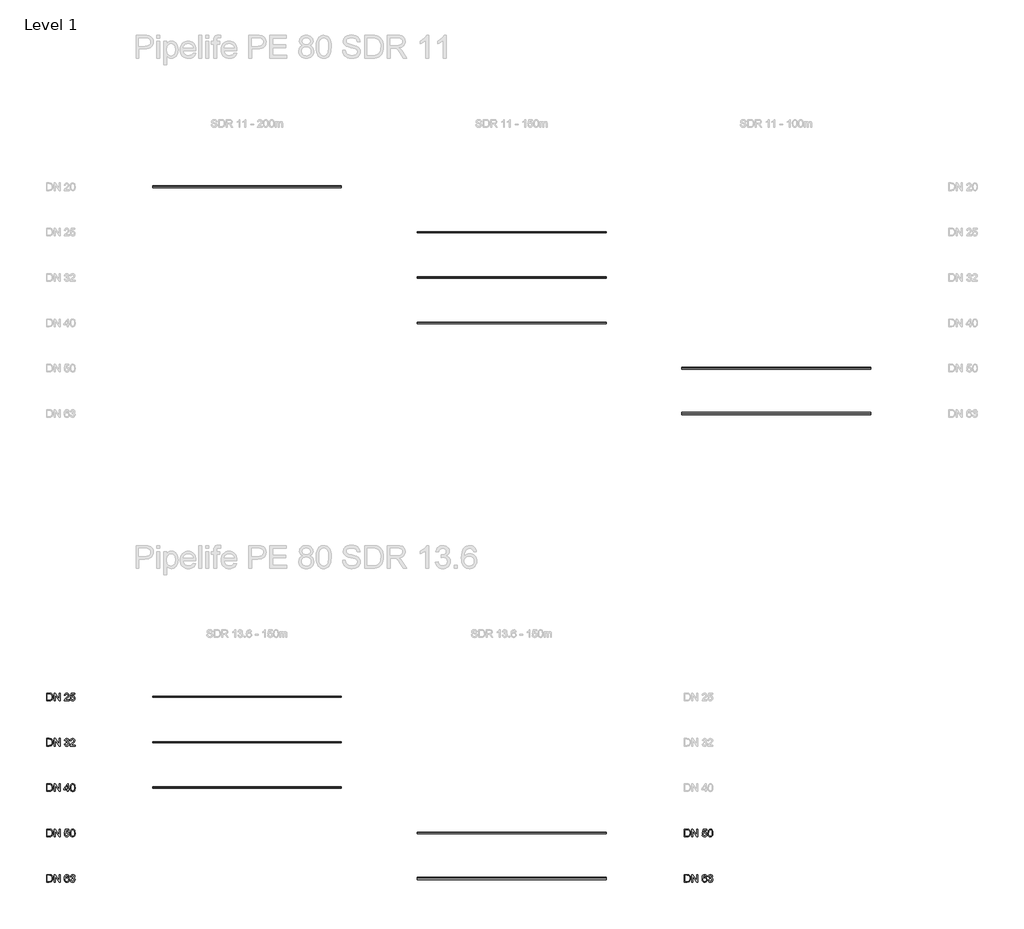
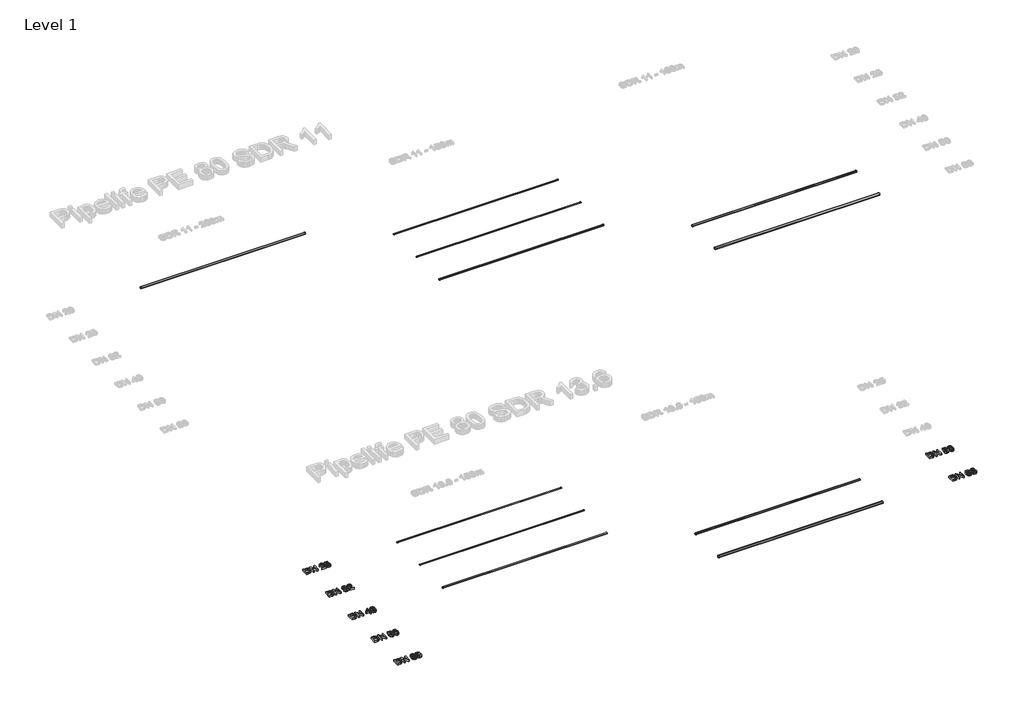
# One storey, part 1 of 6: 11 pipe segments, 7 proxies.
"""IFC4 building model written with IfcOpenShell, lengths in millimetres."""

from ifc_helpers import new_model, si_unit, point, frame, frame_2d, origin, origin_with_axes, place, context, project, spatial, polyline, circle_curve, trimmed, segment, composite_curve, outline, extrude, element, save

model = new_model("IFC4")

# Units and contexts
model_context = context("Model", 3, world=origin())
ifc_project = project(units=[si_unit("LENGTHUNIT", "METRE", prefix="MILLI")], contexts=[model_context])

# Site, building, storey
site = spatial("IfcSite", under=ifc_project)
building = spatial("IfcBuilding", under=site)
storey = spatial("IfcBuildingStorey", under=building, Name="Level 1", Elevation=0.0)

# Proxies
placement = place(None, origin())
element("IfcBuildingElementProxy", 1, Name="200mm Arial", ObjectType="200mm Arial", at=placement, inside=storey, context=model_context, shape_type="SweptSolid", body=[
    extrude(outline(polyline([(-19337.4878779, -14213.949573), (-19337.4878779, -14013.0369527), (-19268.17891, -14013.0369527), (-19232.3226782, -14015.9309577), (-19216.3075487, -14021.5105013), (-19202.7940167, -14030.302881), (-19188.90034, -14045.606772), (-19179.0043144, -14064.6385338), (-19173.0814143, -14087.0302846), (-19171.1071142, -14112.4141423), (-19176.4536659, -14152.9547382), (-19190.187927, -14182.2136195), (-19208.5329759, -14200.436041), (-19232.5434074, -14210.5160077), (-19264.8434466, -14213.949573), (-19337.4878779, -14213.949573)]), holes=[polyline([(-19312.3738004, -14188.8354954), (-19267.9336553, -14188.8354954), (-19235.6090907, -14185.2057264), (-19216.9697363, -14174.9540815), (-19208.2448016, -14164.0831685), (-19201.6903707, -14150.0116822), (-19197.5884865, -14132.6783089), (-19196.2211917, -14112.0217348), (-19198.9005989, -14084.6513144), (-19206.9388205, -14064.4423301), (-19218.8152776, -14050.5609162), (-19233.0093913, -14042.1732067), (-19268.6203684, -14038.1510302), (-19312.3738004, -14038.1510302), (-19312.3738004, -14188.8354954)])]), origin_with_axes(), (0.0, 0.0, 1.0), 50.0),
    extrude(outline(polyline([(-19136.5752576, -14213.949573), (-19136.5752576, -14013.0369527), (-19109.6953465, -14013.0369527), (-19004.7263505, -14172.2072292), (-19004.7263505, -14013.0369527), (-18979.612273, -14013.0369527), (-18979.612273, -14213.949573), (-19006.4921841, -14213.949573), (-19111.4611801, -14054.7302454), (-19111.4611801, -14213.949573), (-19136.5752576, -14213.949573)])), origin_with_axes(), (0.0, 0.0, 1.0), 50.0),
    extrude(outline(polyline([(-18866.5989241, -14160.5821582), (-18841.4848465, -14157.4428985), (-18835.8623834, -14173.2250361), (-18827.627958, -14183.8813512), (-18816.3769004, -14189.9514041), (-18801.7045401, -14191.9747551), (-18784.4876627, -14189.1911147), (-18771.19486, -14180.8401934), (-18762.6967859, -14168.3812565), (-18759.8640945, -14153.2735692), (-18762.6722604, -14138.9323028), (-18771.0967581, -14127.3011004), (-18783.8500006, -14119.5939726), (-18799.6444009, -14117.02493), (-18817.2536858, -14119.7717822), (-18814.4577826, -14094.6577047), (-18810.4356061, -14094.9520102), (-18795.3892325, -14093.1493885), (-18781.9370142, -14087.7415231), (-18772.4456588, -14078.5935242), (-18769.2818736, -14065.5705016), (-18771.5750047, -14054.7241141), (-18778.454398, -14045.925603), (-18788.9512976, -14040.0946734), (-18802.0969476, -14038.1510302), (-18815.267123, -14040.1130675), (-18826.0338027, -14045.9991794), (-18833.8942147, -14055.809366), (-18838.3455868, -14069.5436271), (-18863.4596644, -14066.4043674), (-18856.0652363, -14043.8532011), (-18842.9073236, -14027.0164685), (-18824.9056313, -14016.5318316), (-18802.9798644, -14013.0369527), (-18787.1915954, -14014.7598667), (-18772.6909134, -14019.9286087), (-18760.4649685, -14028.0833263), (-18751.5009105, -14038.7641669), (-18746.0010747, -14051.0698196), (-18744.1677961, -14064.0989736), (-18745.9091042, -14076.2390794), (-18751.1330285, -14087.2510138), (-18759.7659927, -14096.6320047), (-18771.7344202, -14103.87928), (-18756.0135963, -14110.2313758), (-18744.3639998, -14121.0471064), (-18737.1535127, -14135.7378608), (-18734.750017, -14153.7150276), (-18739.5570084, -14178.191443), (-18753.9779826, -14198.645682), (-18775.744334, -14212.478045), (-18802.5874569, -14217.0888326), (-18826.8676686, -14213.1524953), (-18846.6351945, -14201.3434833), (-18860.3817184, -14183.2804773), (-18866.5989241, -14160.5821582)])), origin_with_axes(), (0.0, 0.0, 1.0), 50.0),
    extrude(outline(polyline([(-18584.0655518, -14188.8354954), (-18584.0655518, -14213.949573), (-18715.9144588, -14213.949573), (-18713.2166575, -14196.6345937), (-18697.9618175, -14169.9754118), (-18666.5201696, -14140.8636832), (-18623.1591451, -14099.0232377), (-18615.028953, -14084.6022634), (-18612.318889, -14070.5736967), (-18614.8756689, -14057.9982638), (-18622.5460085, -14047.5442838), (-18634.3366264, -14040.4993436), (-18649.2542413, -14038.1510302), (-18664.9198829, -14040.4441613), (-18677.0906456, -14047.3235546), (-18684.9449262, -14058.2496499), (-18687.6611216, -14072.6828868), (-18712.7751992, -14069.5436271), (-18706.6867521, -14045.2511527), (-18693.5227081, -14027.5069778), (-18673.96978, -14016.6544589), (-18648.7146811, -14013.0369527), (-18623.2756411, -14017.0591291), (-18603.7595012, -14029.1256586), (-18591.3434839, -14047.1518763), (-18587.2048115, -14069.0531178), (-18591.6684463, -14092.8673456), (-18606.5063535, -14117.4909138), (-18642.4852126, -14151.9001431), (-18671.376212, -14176.0577275), (-18682.7069774, -14188.8354954), (-18584.0655518, -14188.8354954)])), origin_with_axes(), (0.0, 0.0, 1.0), 50.0),
])
element("IfcBuildingElementProxy", 2, Name="200mm Arial", ObjectType="200mm Arial", at=placement, inside=storey, context=model_context, shape_type="SweptSolid", body=[
    extrude(outline(polyline([(-19337.4878779, -15413.949573), (-19337.4878779, -15213.0369527), (-19268.17891, -15213.0369527), (-19232.3226782, -15215.9309577), (-19216.3075487, -15221.5105013), (-19202.7940167, -15230.302881), (-19188.90034, -15245.606772), (-19179.0043144, -15264.6385338), (-19173.0814143, -15287.0302846), (-19171.1071142, -15312.4141423), (-19176.4536659, -15352.9547382), (-19190.187927, -15382.2136195), (-19208.5329759, -15400.436041), (-19232.5434074, -15410.5160077), (-19264.8434466, -15413.949573), (-19337.4878779, -15413.949573)]), holes=[polyline([(-19312.3738004, -15388.8354954), (-19267.9336553, -15388.8354954), (-19235.6090907, -15385.2057264), (-19216.9697363, -15374.9540815), (-19208.2448016, -15364.0831685), (-19201.6903707, -15350.0116822), (-19197.5884865, -15332.6783089), (-19196.2211917, -15312.0217348), (-19198.9005989, -15284.6513144), (-19206.9388205, -15264.4423301), (-19218.8152776, -15250.5609162), (-19233.0093913, -15242.1732067), (-19268.6203684, -15238.1510302), (-19312.3738004, -15238.1510302), (-19312.3738004, -15388.8354954)])]), origin_with_axes(), (0.0, 0.0, 1.0), 50.0),
    extrude(outline(polyline([(-19136.5752576, -15413.949573), (-19136.5752576, -15213.0369527), (-19109.6953465, -15213.0369527), (-19004.7263505, -15372.2072292), (-19004.7263505, -15213.0369527), (-18979.612273, -15213.0369527), (-18979.612273, -15413.949573), (-19006.4921841, -15413.949573), (-19111.4611801, -15254.7302454), (-19111.4611801, -15413.949573), (-19136.5752576, -15413.949573)])), origin_with_axes(), (0.0, 0.0, 1.0), 50.0),
    extrude(outline(polyline([(-18784.9781721, -15413.949573), (-18784.9781721, -15366.8606776), (-18876.0167031, -15366.8606776), (-18876.0167031, -15341.7466), (-18778.6996527, -15216.1762123), (-18759.8640945, -15216.1762123), (-18759.8640945, -15341.7466), (-18734.750017, -15341.7466), (-18734.750017, -15366.8606776), (-18759.8640945, -15366.8606776), (-18759.8640945, -15413.949573), (-18784.9781721, -15413.949573)]), holes=[polyline([(-18784.9781721, -15341.7466), (-18784.9781721, -15264.1480245), (-18845.1146156, -15341.7466), (-18784.9781721, -15341.7466)])]), origin_with_axes(), (0.0, 0.0, 1.0), 50.0),
    extrude(outline(polyline([(-18712.7751992, -15315.1119436), (-18710.9296578, -15282.9529258), (-18705.3930338, -15257.3054194), (-18696.2205094, -15237.7770168), (-18683.4672669, -15223.9753106), (-18667.0413358, -15215.7715422), (-18646.8507456, -15213.0369527), (-18631.3751764, -15214.6556334), (-18617.5182879, -15219.5116758), (-18605.930005, -15227.4150073), (-18597.2602527, -15238.1755557), (-18585.4880288, -15267.9004209), (-18580.9262921, -15315.1119436), (-18582.7534393, -15347.0870203), (-18588.2348811, -15372.6732131), (-18597.3522232, -15392.2200098), (-18610.0870716, -15406.0768983), (-18626.5497909, -15414.335849), (-18646.8507456, -15417.0888326), (-18672.9458418, -15412.3063667), (-18692.7624186, -15397.9589689), (-18701.5180101, -15382.8298218), (-18707.772004, -15363.9789353), (-18712.7751992, -15315.1119436)]), holes=[polyline([(-18687.6611216, -15315.0628927), (-18684.7180657, -15354.5672876), (-18675.8888978, -15377.4311536), (-18662.7432478, -15388.3388547), (-18646.8507456, -15391.9747551), (-18630.9582434, -15388.326592), (-18617.8125935, -15377.3821026), (-18608.9834256, -15354.5059739), (-18606.0403696, -15315.0628927), (-18608.8853237, -15276.4475459), (-18617.420186, -15253.4058703), (-18630.5413105, -15241.9647402), (-18647.1450512, -15238.1510302), (-18662.8658751, -15241.5110191), (-18675.4964903, -15251.5909857), (-18684.6199638, -15276.0674012), (-18687.6611216, -15315.0628927)])]), origin_with_axes(), (0.0, 0.0, 1.0), 50.0),
])
element("IfcBuildingElementProxy", 3, Name="200mm Arial", ObjectType="200mm Arial", at=placement, inside=storey, context=model_context, shape_type="SweptSolid", body=[
    extrude(outline(polyline([(-19337.4878779, -16613.949573), (-19337.4878779, -16413.0369527), (-19268.17891, -16413.0369527), (-19232.3226782, -16415.9309577), (-19216.3075487, -16421.5105013), (-19202.7940167, -16430.302881), (-19188.90034, -16445.606772), (-19179.0043144, -16464.6385338), (-19173.0814143, -16487.0302846), (-19171.1071142, -16512.4141423), (-19176.4536659, -16552.9547382), (-19190.187927, -16582.2136195), (-19208.5329759, -16600.436041), (-19232.5434074, -16610.5160077), (-19264.8434466, -16613.949573), (-19337.4878779, -16613.949573)]), holes=[polyline([(-19312.3738004, -16588.8354954), (-19267.9336553, -16588.8354954), (-19235.6090907, -16585.2057264), (-19216.9697363, -16574.9540815), (-19208.2448016, -16564.0831685), (-19201.6903707, -16550.0116822), (-19197.5884865, -16532.6783089), (-19196.2211917, -16512.0217348), (-19198.9005989, -16484.6513144), (-19206.9388205, -16464.4423301), (-19218.8152776, -16450.5609162), (-19233.0093913, -16442.1732067), (-19268.6203684, -16438.1510302), (-19312.3738004, -16438.1510302), (-19312.3738004, -16588.8354954)])]), origin_with_axes(), (0.0, 0.0, 1.0), 50.0),
    extrude(outline(polyline([(-19136.5752576, -16613.949573), (-19136.5752576, -16413.0369527), (-19109.6953465, -16413.0369527), (-19004.7263505, -16572.2072292), (-19004.7263505, -16413.0369527), (-18979.612273, -16413.0369527), (-18979.612273, -16613.949573), (-19006.4921841, -16613.949573), (-19111.4611801, -16454.7302454), (-19111.4611801, -16613.949573), (-19136.5752576, -16613.949573)])), origin_with_axes(), (0.0, 0.0, 1.0), 50.0),
    extrude(outline(polyline([(-18866.5989241, -16560.5821582), (-18841.4848465, -16557.4428985), (-18836.8740589, -16572.5199289), (-18828.8297059, -16583.3172655), (-18817.3885758, -16589.8103827), (-18802.5874569, -16591.9747551), (-18784.5857646, -16588.9642541), (-18771.0967581, -16579.9327511), (-18762.6722604, -16565.9225785), (-18759.8640945, -16547.9760685), (-18762.4944508, -16531.0780222), (-18770.3855196, -16518.1531014), (-18783.5986146, -16509.9493329), (-18802.1950494, -16507.2147434), (-18824.2434437, -16511.5802764), (-18838.3455868, -16522.9110419), (-18863.4596644, -16519.7717822), (-18841.4848465, -16416.1762123), (-18744.1677961, -16416.1762123), (-18744.1677961, -16441.2902899), (-18821.1777604, -16441.2902899), (-18831.9199147, -16496.619742), (-18813.979536, -16485.7304349), (-18795.1807661, -16482.1006659), (-18771.7160261, -16486.601089), (-18752.2366745, -16500.1023582), (-18739.1216814, -16520.6792244), (-18734.750017, -16546.4064386), (-18738.6863543, -16571.5205162), (-18750.4953664, -16593.0048247), (-18760.9309523, -16603.5415782), (-18773.1078464, -16611.0678307), (-18787.0260485, -16615.5835821), (-18802.6855588, -16617.0888326), (-18827.3520466, -16613.2199403), (-18847.0030765, -16601.6132634), (-18860.4736888, -16583.6177025), (-18866.5989241, -16560.5821582)])), origin_with_axes(), (0.0, 0.0, 1.0), 50.0),
    extrude(outline(polyline([(-18712.7751992, -16515.1119436), (-18710.9296578, -16482.9529258), (-18705.3930338, -16457.3054194), (-18696.2205094, -16437.7770168), (-18683.4672669, -16423.9753106), (-18667.0413358, -16415.7715422), (-18646.8507456, -16413.0369527), (-18631.3751764, -16414.6556334), (-18617.5182879, -16419.5116758), (-18605.930005, -16427.4150073), (-18597.2602527, -16438.1755557), (-18585.4880288, -16467.9004209), (-18580.9262921, -16515.1119436), (-18582.7534393, -16547.0870203), (-18588.2348811, -16572.6732131), (-18597.3522232, -16592.2200098), (-18610.0870716, -16606.0768983), (-18626.5497909, -16614.335849), (-18646.8507456, -16617.0888326), (-18672.9458418, -16612.3063667), (-18692.7624186, -16597.9589689), (-18701.5180101, -16582.8298218), (-18707.772004, -16563.9789353), (-18712.7751992, -16515.1119436)]), holes=[polyline([(-18687.6611216, -16515.0628927), (-18684.7180657, -16554.5672876), (-18675.8888978, -16577.4311536), (-18662.7432478, -16588.3388547), (-18646.8507456, -16591.9747551), (-18630.9582434, -16588.326592), (-18617.8125935, -16577.3821026), (-18608.9834256, -16554.5059739), (-18606.0403696, -16515.0628927), (-18608.8853237, -16476.4475459), (-18617.420186, -16453.4058703), (-18630.5413105, -16441.9647402), (-18647.1450512, -16438.1510302), (-18662.8658751, -16441.5110191), (-18675.4964903, -16451.5909857), (-18684.6199638, -16476.0674012), (-18687.6611216, -16515.0628927)])]), origin_with_axes(), (0.0, 0.0, 1.0), 50.0),
])
element("IfcBuildingElementProxy", 4, Name="200mm Arial", ObjectType="200mm Arial", at=placement, inside=storey, context=model_context, shape_type="SweptSolid", body=[
    extrude(outline(polyline([(-19337.4878779, -17813.949573), (-19337.4878779, -17613.0369527), (-19268.17891, -17613.0369527), (-19232.3226782, -17615.9309577), (-19216.3075487, -17621.5105013), (-19202.7940167, -17630.302881), (-19188.90034, -17645.606772), (-19179.0043144, -17664.6385338), (-19173.0814143, -17687.0302846), (-19171.1071142, -17712.4141423), (-19176.4536659, -17752.9547382), (-19190.187927, -17782.2136195), (-19208.5329759, -17800.436041), (-19232.5434074, -17810.5160077), (-19264.8434466, -17813.949573), (-19337.4878779, -17813.949573)]), holes=[polyline([(-19312.3738004, -17788.8354954), (-19267.9336553, -17788.8354954), (-19235.6090907, -17785.2057264), (-19216.9697363, -17774.9540815), (-19208.2448016, -17764.0831685), (-19201.6903707, -17750.0116822), (-19197.5884865, -17732.6783089), (-19196.2211917, -17712.0217348), (-19198.9005989, -17684.6513144), (-19206.9388205, -17664.4423301), (-19218.8152776, -17650.5609162), (-19233.0093913, -17642.1732067), (-19268.6203684, -17638.1510302), (-19312.3738004, -17638.1510302), (-19312.3738004, -17788.8354954)])]), origin_with_axes(), (0.0, 0.0, 1.0), 50.0),
    extrude(outline(polyline([(-19136.5752576, -17813.949573), (-19136.5752576, -17613.0369527), (-19109.6953465, -17613.0369527), (-19004.7263505, -17772.2072292), (-19004.7263505, -17613.0369527), (-18979.612273, -17613.0369527), (-18979.612273, -17813.949573), (-19006.4921841, -17813.949573), (-19111.4611801, -17654.7302454), (-19111.4611801, -17813.949573), (-19136.5752576, -17813.949573)])), origin_with_axes(), (0.0, 0.0, 1.0), 50.0),
    extrude(outline(polyline([(-18737.8892767, -17666.4043674), (-18763.0033542, -17669.5436271), (-18772.5192352, -17648.5988789), (-18783.9113143, -17640.7629924), (-18797.6823636, -17638.1510302), (-18820.3438945, -17644.2333458), (-18829.7800677, -17653.8411973), (-18837.4871955, -17667.066555), (-18842.6927257, -17685.7733545), (-18844.6241062, -17711.8255311), (-18834.5502709, -17700.0717013), (-18822.4776101, -17691.7882251), (-18809.0805741, -17686.8770005), (-18795.0336133, -17685.2399256), (-18771.8325221, -17689.7158232), (-18752.3593018, -17703.143516), (-18739.1523382, -17723.6590686), (-18734.750017, -17749.3985455), (-18736.8224189, -17767.3818437), (-18743.0396246, -17784.0530295), (-18752.8865994, -17798.1919608), (-18765.8483083, -17808.5784958), (-18781.3361403, -17814.9612484), (-18798.7614842, -17817.0888326), (-18827.2539447, -17811.4479754), (-18849.9461324, -17794.5254036), (-18858.6051549, -17781.4165418), (-18864.7901709, -17764.6533856), (-18869.7381838, -17720.1641897), (-18864.2444793, -17670.144501), (-18857.3773487, -17651.0667539), (-18847.7633659, -17635.9437382), (-18837.3431084, -17625.9220195), (-18825.2612505, -17618.763649), (-18796.1127338, -17613.0369527), (-18774.0766023, -17616.5808825), (-18756.4305292, -17627.2126722), (-18744.0696942, -17644.0984558), (-18737.8892767, -17666.4043674)]), holes=[polyline([(-18844.6241062, -17749.0061381), (-18838.8115707, -17770.7602267), (-18823.3605269, -17786.554627), (-18800.7235215, -17791.9747551), (-18784.1504376, -17789.1665892), (-18771.1212836, -17780.7420915), (-18762.6783918, -17767.4983397), (-18759.8640945, -17750.2324114), (-18762.6416036, -17733.6593275), (-18770.9741308, -17721.022581), (-18784.224014, -17713.0211476), (-18801.7535911, -17710.3540031), (-18818.3021495, -17713.0211476), (-18832.1406439, -17721.022581), (-18841.5032406, -17733.3527592), (-18844.6241062, -17749.0061381)])]), origin_with_axes(), (0.0, 0.0, 1.0), 50.0),
    extrude(outline(polyline([(-18712.7751992, -17760.5821582), (-18687.6611216, -17757.4428985), (-18682.0386585, -17773.2250361), (-18673.8042331, -17783.8813512), (-18662.5531754, -17789.9514041), (-18647.8808152, -17791.9747551), (-18630.6639378, -17789.1911147), (-18617.3711351, -17780.8401934), (-18608.873061, -17768.3812565), (-18606.0403696, -17753.2735692), (-18608.8485355, -17738.9323028), (-18617.2730332, -17727.3011004), (-18630.0262757, -17719.5939726), (-18645.820676, -17717.02493), (-18663.4299609, -17719.7717822), (-18660.6340577, -17694.6577047), (-18656.6118812, -17694.9520102), (-18641.5655076, -17693.1493885), (-18628.1132893, -17687.7415231), (-18618.6219339, -17678.5935242), (-18615.4581487, -17665.5705016), (-18617.7512798, -17654.7241141), (-18624.6306731, -17645.925603), (-18635.1275727, -17640.0946734), (-18648.2732227, -17638.1510302), (-18661.4433981, -17640.1130675), (-18672.2100778, -17645.9991794), (-18680.0704898, -17655.809366), (-18684.5218619, -17669.5436271), (-18709.6359395, -17666.4043674), (-18702.2415114, -17643.8532011), (-18689.0835987, -17627.0164685), (-18671.0819064, -17616.5318316), (-18649.1561395, -17613.0369527), (-18633.3678705, -17614.7598667), (-18618.8671885, -17619.9286087), (-18606.6412435, -17628.0833263), (-18597.6771856, -17638.7641669), (-18592.1773498, -17651.0698196), (-18590.3440712, -17664.0989736), (-18592.0853793, -17676.2390794), (-18597.3093036, -17687.2510138), (-18605.9422678, -17696.6320047), (-18617.9106953, -17703.87928), (-18602.1898714, -17710.2313758), (-18590.5402749, -17721.0471064), (-18583.3297878, -17735.7378608), (-18580.9262921, -17753.7150276), (-18585.7332835, -17778.191443), (-18600.1542577, -17798.645682), (-18621.9206091, -17812.478045), (-18648.763732, -17817.0888326), (-18673.0439437, -17813.1524953), (-18692.8114695, -17801.3434833), (-18706.5579934, -17783.2804773), (-18712.7751992, -17760.5821582)])), origin_with_axes(), (0.0, 0.0, 1.0), 50.0),
])
element("IfcBuildingElementProxy", 5, Name="200mm Arial", ObjectType="200mm Arial", at=placement, inside=storey, context=model_context, shape_type="SweptSolid", body=[
    extrude(outline(polyline([(-2460.6923074, -16613.949573), (-2460.6923074, -16413.0369527), (-2391.3833395, -16413.0369527), (-2355.5271077, -16415.9309577), (-2339.5119782, -16421.5105013), (-2325.9984462, -16430.302881), (-2312.1047695, -16445.606772), (-2302.2087438, -16464.6385338), (-2296.2858437, -16487.0302846), (-2294.3115437, -16512.4141423), (-2299.6580953, -16552.9547382), (-2313.3923565, -16582.2136195), (-2331.7374053, -16600.436041), (-2355.7478369, -16610.5160077), (-2388.0478761, -16613.949573), (-2460.6923074, -16613.949573)]), holes=[polyline([(-2435.5782298, -16588.8354954), (-2391.1380848, -16588.8354954), (-2358.8135202, -16585.2057264), (-2340.1741658, -16574.9540815), (-2331.4492311, -16564.0831685), (-2324.8948002, -16550.0116822), (-2320.792916, -16532.6783089), (-2319.4256212, -16512.0217348), (-2322.1050284, -16484.6513144), (-2330.14325, -16464.4423301), (-2342.0197071, -16450.5609162), (-2356.2138207, -16442.1732067), (-2391.8247979, -16438.1510302), (-2435.5782298, -16438.1510302), (-2435.5782298, -16588.8354954)])]), origin_with_axes(), (0.0, 0.0, 1.0), 50.0),
    extrude(outline(polyline([(-2259.7796871, -16613.949573), (-2259.7796871, -16413.0369527), (-2232.899776, -16413.0369527), (-2127.93078, -16572.2072292), (-2127.93078, -16413.0369527), (-2102.8167025, -16413.0369527), (-2102.8167025, -16613.949573), (-2129.6966136, -16613.949573), (-2234.6656095, -16454.7302454), (-2234.6656095, -16613.949573), (-2259.7796871, -16613.949573)])), origin_with_axes(), (0.0, 0.0, 1.0), 50.0),
    extrude(outline(polyline([(-1989.8033535, -16560.5821582), (-1964.689276, -16557.4428985), (-1960.0784883, -16572.5199289), (-1952.0341354, -16583.3172655), (-1940.5930053, -16589.8103827), (-1925.7918864, -16591.9747551), (-1907.7901941, -16588.9642541), (-1894.3011876, -16579.9327511), (-1885.8766899, -16565.9225785), (-1883.068524, -16547.9760685), (-1885.6988803, -16531.0780222), (-1893.5899491, -16518.1531014), (-1906.8030441, -16509.9493329), (-1925.3994789, -16507.2147434), (-1947.4478732, -16511.5802764), (-1961.5500163, -16522.9110419), (-1986.6640939, -16519.7717822), (-1964.689276, -16416.1762123), (-1867.3722255, -16416.1762123), (-1867.3722255, -16441.2902899), (-1944.3821899, -16441.2902899), (-1955.1243441, -16496.619742), (-1937.1839655, -16485.7304349), (-1918.3851955, -16482.1006659), (-1894.9204556, -16486.601089), (-1875.441104, -16500.1023582), (-1862.3261108, -16520.6792244), (-1857.9544465, -16546.4064386), (-1861.8907838, -16571.5205162), (-1873.6997959, -16593.0048247), (-1884.1353818, -16603.5415782), (-1896.3122758, -16611.0678307), (-1910.230478, -16615.5835821), (-1925.8899882, -16617.0888326), (-1950.556476, -16613.2199403), (-1970.2075059, -16601.6132634), (-1983.6781183, -16583.6177025), (-1989.8033535, -16560.5821582)])), origin_with_axes(), (0.0, 0.0, 1.0), 50.0),
    extrude(outline(polyline([(-1835.9796286, -16515.1119436), (-1834.1340873, -16482.9529258), (-1828.5974633, -16457.3054194), (-1819.4249388, -16437.7770168), (-1806.6716963, -16423.9753106), (-1790.2457653, -16415.7715422), (-1770.0551751, -16413.0369527), (-1754.5796058, -16414.6556334), (-1740.7227173, -16419.5116758), (-1729.1344345, -16427.4150073), (-1720.4646821, -16438.1755557), (-1708.6924583, -16467.9004209), (-1704.1307216, -16515.1119436), (-1705.9578688, -16547.0870203), (-1711.4393105, -16572.6732131), (-1720.5566526, -16592.2200098), (-1733.291501, -16606.0768983), (-1749.7542203, -16614.335849), (-1770.0551751, -16617.0888326), (-1796.1502713, -16612.3063667), (-1815.9668481, -16597.9589689), (-1824.7224396, -16582.8298218), (-1830.9764335, -16563.9789353), (-1835.9796286, -16515.1119436)]), holes=[polyline([(-1810.8655511, -16515.0628927), (-1807.9224951, -16554.5672876), (-1799.0933272, -16577.4311536), (-1785.9476773, -16588.3388547), (-1770.0551751, -16591.9747551), (-1754.1626729, -16588.326592), (-1741.0170229, -16577.3821026), (-1732.1878551, -16554.5059739), (-1729.2447991, -16515.0628927), (-1732.0897532, -16476.4475459), (-1740.6246155, -16453.4058703), (-1753.74574, -16441.9647402), (-1770.3494807, -16438.1510302), (-1786.0703046, -16441.5110191), (-1798.7009198, -16451.5909857), (-1807.8243933, -16476.0674012), (-1810.8655511, -16515.0628927)])]), origin_with_axes(), (0.0, 0.0, 1.0), 50.0),
])
element("IfcBuildingElementProxy", 6, Name="200mm Arial", ObjectType="200mm Arial", at=placement, inside=storey, context=model_context, shape_type="SweptSolid", body=[
    extrude(outline(polyline([(-2460.6923074, -17813.949573), (-2460.6923074, -17613.0369527), (-2391.3833395, -17613.0369527), (-2355.5271077, -17615.9309577), (-2339.5119782, -17621.5105013), (-2325.9984462, -17630.302881), (-2312.1047695, -17645.606772), (-2302.2087438, -17664.6385338), (-2296.2858437, -17687.0302846), (-2294.3115437, -17712.4141423), (-2299.6580953, -17752.9547382), (-2313.3923565, -17782.2136195), (-2331.7374053, -17800.436041), (-2355.7478369, -17810.5160077), (-2388.0478761, -17813.949573), (-2460.6923074, -17813.949573)]), holes=[polyline([(-2435.5782298, -17788.8354954), (-2391.1380848, -17788.8354954), (-2358.8135202, -17785.2057264), (-2340.1741658, -17774.9540815), (-2331.4492311, -17764.0831685), (-2324.8948002, -17750.0116822), (-2320.792916, -17732.6783089), (-2319.4256212, -17712.0217348), (-2322.1050284, -17684.6513144), (-2330.14325, -17664.4423301), (-2342.0197071, -17650.5609162), (-2356.2138207, -17642.1732067), (-2391.8247979, -17638.1510302), (-2435.5782298, -17638.1510302), (-2435.5782298, -17788.8354954)])]), origin_with_axes(), (0.0, 0.0, 1.0), 50.0),
    extrude(outline(polyline([(-2259.7796871, -17813.949573), (-2259.7796871, -17613.0369527), (-2232.899776, -17613.0369527), (-2127.93078, -17772.2072292), (-2127.93078, -17613.0369527), (-2102.8167025, -17613.0369527), (-2102.8167025, -17813.949573), (-2129.6966136, -17813.949573), (-2234.6656095, -17654.7302454), (-2234.6656095, -17813.949573), (-2259.7796871, -17813.949573)])), origin_with_axes(), (0.0, 0.0, 1.0), 50.0),
    extrude(outline(polyline([(-1861.0937062, -17666.4043674), (-1886.2077837, -17669.5436271), (-1895.7236646, -17648.5988789), (-1907.1157438, -17640.7629924), (-1920.8867931, -17638.1510302), (-1943.548324, -17644.2333458), (-1952.9844972, -17653.8411973), (-1960.691625, -17667.066555), (-1965.8971552, -17685.7733545), (-1967.8285357, -17711.8255311), (-1957.7547004, -17700.0717013), (-1945.6820396, -17691.7882251), (-1932.2850036, -17686.8770005), (-1918.2380427, -17685.2399256), (-1895.0369516, -17689.7158232), (-1875.5637313, -17703.143516), (-1862.3567677, -17723.6590686), (-1857.9544465, -17749.3985455), (-1860.0268484, -17767.3818437), (-1866.2440541, -17784.0530295), (-1876.0910288, -17798.1919608), (-1889.0527378, -17808.5784958), (-1904.5405698, -17814.9612484), (-1921.9659136, -17817.0888326), (-1950.4583742, -17811.4479754), (-1973.1505619, -17794.5254036), (-1981.8095844, -17781.4165418), (-1987.9946004, -17764.6533856), (-1992.9426132, -17720.1641897), (-1987.4489088, -17670.144501), (-1980.5817782, -17651.0667539), (-1970.9677954, -17635.9437382), (-1960.5475379, -17625.9220195), (-1948.46568, -17618.763649), (-1919.3171633, -17613.0369527), (-1897.2810318, -17616.5808825), (-1879.6349587, -17627.2126722), (-1867.2741237, -17644.0984558), (-1861.0937062, -17666.4043674)]), holes=[polyline([(-1967.8285357, -17749.0061381), (-1962.0160002, -17770.7602267), (-1946.5649564, -17786.554627), (-1923.9279509, -17791.9747551), (-1907.3548671, -17789.1665892), (-1894.3257131, -17780.7420915), (-1885.8828213, -17767.4983397), (-1883.068524, -17750.2324114), (-1885.8460331, -17733.6593275), (-1894.1785603, -17721.022581), (-1907.4284435, -17713.0211476), (-1924.9580205, -17710.3540031), (-1941.5065789, -17713.0211476), (-1955.3450733, -17721.022581), (-1964.7076701, -17733.3527592), (-1967.8285357, -17749.0061381)])]), origin_with_axes(), (0.0, 0.0, 1.0), 50.0),
    extrude(outline(polyline([(-1835.9796286, -17760.5821582), (-1810.8655511, -17757.4428985), (-1805.2430879, -17773.2250361), (-1797.0086626, -17783.8813512), (-1785.7576049, -17789.9514041), (-1771.0852447, -17791.9747551), (-1753.8683673, -17789.1911147), (-1740.5755645, -17780.8401934), (-1732.0774905, -17768.3812565), (-1729.2447991, -17753.2735692), (-1732.052965, -17738.9323028), (-1740.4774627, -17727.3011004), (-1753.2307052, -17719.5939726), (-1769.0251055, -17717.02493), (-1786.6343903, -17719.7717822), (-1783.8384872, -17694.6577047), (-1779.8163107, -17694.9520102), (-1764.7699371, -17693.1493885), (-1751.3177188, -17687.7415231), (-1741.8263633, -17678.5935242), (-1738.6625782, -17665.5705016), (-1740.9557093, -17654.7241141), (-1747.8351026, -17645.925603), (-1758.3320022, -17640.0946734), (-1771.4776521, -17638.1510302), (-1784.6478276, -17640.1130675), (-1795.4145073, -17645.9991794), (-1803.2749193, -17655.809366), (-1807.7262914, -17669.5436271), (-1832.8403689, -17666.4043674), (-1825.4459408, -17643.8532011), (-1812.2880281, -17627.0164685), (-1794.2863358, -17616.5318316), (-1772.3605689, -17613.0369527), (-1756.5723, -17614.7598667), (-1742.071618, -17619.9286087), (-1729.845673, -17628.0833263), (-1720.8816151, -17638.7641669), (-1715.3817792, -17651.0698196), (-1713.5485006, -17664.0989736), (-1715.2898087, -17676.2390794), (-1720.5137331, -17687.2510138), (-1729.1466972, -17696.6320047), (-1741.1151248, -17703.87928), (-1725.3943009, -17710.2313758), (-1713.7447044, -17721.0471064), (-1706.5342173, -17735.7378608), (-1704.1307216, -17753.7150276), (-1708.937713, -17778.191443), (-1723.3586872, -17798.645682), (-1745.1250386, -17812.478045), (-1771.9681615, -17817.0888326), (-1796.2483731, -17813.1524953), (-1816.015899, -17801.3434833), (-1829.7624229, -17783.2804773), (-1835.9796286, -17760.5821582)])), origin_with_axes(), (0.0, 0.0, 1.0), 50.0),
])
element("IfcBuildingElementProxy", 7, Name="200mm Arial", ObjectType="200mm Arial", at=placement, inside=storey, context=model_context, shape_type="SweptSolid", body=[
    extrude(outline(polyline([(-19337.4878779, -13013.949573), (-19337.4878779, -12813.0369527), (-19268.17891, -12813.0369527), (-19232.3226782, -12815.9309577), (-19216.3075487, -12821.5105013), (-19202.7940167, -12830.302881), (-19188.90034, -12845.606772), (-19179.0043144, -12864.6385338), (-19173.0814143, -12887.0302846), (-19171.1071142, -12912.4141423), (-19176.4536659, -12952.9547382), (-19190.187927, -12982.2136195), (-19208.5329759, -13000.436041), (-19232.5434074, -13010.5160077), (-19264.8434466, -13013.949573), (-19337.4878779, -13013.949573)]), holes=[polyline([(-19312.3738004, -12988.8354954), (-19267.9336553, -12988.8354954), (-19235.6090907, -12985.2057264), (-19216.9697363, -12974.9540815), (-19208.2448016, -12964.0831685), (-19201.6903707, -12950.0116822), (-19197.5884865, -12932.6783089), (-19196.2211917, -12912.0217348), (-19198.9005989, -12884.6513144), (-19206.9388205, -12864.4423301), (-19218.8152776, -12850.5609162), (-19233.0093913, -12842.1732067), (-19268.6203684, -12838.1510302), (-19312.3738004, -12838.1510302), (-19312.3738004, -12988.8354954)])]), origin_with_axes(), (0.0, 0.0, 1.0), 50.0),
    extrude(outline(polyline([(-19136.5752576, -13013.949573), (-19136.5752576, -12813.0369527), (-19109.6953465, -12813.0369527), (-19004.7263505, -12972.2072292), (-19004.7263505, -12813.0369527), (-18979.612273, -12813.0369527), (-18979.612273, -13013.949573), (-19006.4921841, -13013.949573), (-19111.4611801, -12854.7302454), (-19111.4611801, -13013.949573), (-19136.5752576, -13013.949573)])), origin_with_axes(), (0.0, 0.0, 1.0), 50.0),
    extrude(outline(polyline([(-18737.8892767, -12988.8354954), (-18737.8892767, -13013.949573), (-18869.7381838, -13013.949573), (-18867.0403825, -12996.6345937), (-18851.7855424, -12969.9754118), (-18820.3438945, -12940.8636832), (-18776.98287, -12899.0232377), (-18768.852678, -12884.6022634), (-18766.1426139, -12870.5736967), (-18768.6993938, -12857.9982638), (-18776.3697334, -12847.5442838), (-18788.1603513, -12840.4993436), (-18803.0779662, -12838.1510302), (-18818.7436079, -12840.4441613), (-18830.9143705, -12847.3235546), (-18838.7686511, -12858.2496499), (-18841.4848465, -12872.6828868), (-18866.5989241, -12869.5436271), (-18860.510477, -12845.2511527), (-18847.346433, -12827.5069778), (-18827.7935049, -12816.6544589), (-18802.538406, -12813.0369527), (-18777.099366, -12817.0591291), (-18757.5832262, -12829.1256586), (-18745.1672088, -12847.1518763), (-18741.0285364, -12869.0531178), (-18745.4921713, -12892.8673456), (-18760.3300784, -12917.4909138), (-18796.3089375, -12951.9001431), (-18825.1999369, -12976.0577275), (-18836.5307023, -12988.8354954), (-18737.8892767, -12988.8354954)])), origin_with_axes(), (0.0, 0.0, 1.0), 50.0),
    extrude(outline(polyline([(-18712.7751992, -12960.5821582), (-18687.6611216, -12957.4428985), (-18683.0503339, -12972.5199289), (-18675.005981, -12983.3172655), (-18663.5648509, -12989.8103827), (-18648.763732, -12991.9747551), (-18630.7620397, -12988.9642541), (-18617.2730332, -12979.9327511), (-18608.8485355, -12965.9225785), (-18606.0403696, -12947.9760685), (-18608.6707259, -12931.0780222), (-18616.5617947, -12918.1531014), (-18629.7748897, -12909.9493329), (-18648.3713245, -12907.2147434), (-18670.4197188, -12911.5802764), (-18684.5218619, -12922.9110419), (-18709.6359395, -12919.7717822), (-18687.6611216, -12816.1762123), (-18590.3440712, -12816.1762123), (-18590.3440712, -12841.2902899), (-18667.3540355, -12841.2902899), (-18678.0961897, -12896.619742), (-18660.1558111, -12885.7304349), (-18641.3570412, -12882.1006659), (-18617.8923012, -12886.601089), (-18598.4129496, -12900.1023582), (-18585.2979565, -12920.6792244), (-18580.9262921, -12946.4064386), (-18584.8626294, -12971.5205162), (-18596.6716415, -12993.0048247), (-18607.1072274, -13003.5415782), (-18619.2841214, -13011.0678307), (-18633.2023236, -13015.5835821), (-18648.8618339, -13017.0888326), (-18673.5283216, -13013.2199403), (-18693.1793515, -13001.6132634), (-18706.6499639, -12983.6177025), (-18712.7751992, -12960.5821582)])), origin_with_axes(), (0.0, 0.0, 1.0), 50.0),
])

# Pipe segments
element("IfcPipeSegment", 8, ObjectType="Pipelife PE 80, SDR 11 niebieska - 150m", at=placement, inside=storey, context=model_context, shape_type="SweptSolid", body=[
    extrude(outline(composite_curve([segment(trimmed(circle_curve(frame_2d((-613.949573, 0.0)), 12.5), [point((-626.449573, 0.0))], [point((-613.949573, 12.5))], False, "CARTESIAN"), True, "CONTINUOUS"), segment(trimmed(circle_curve(frame_2d((-613.949573, 0.0)), 12.5), [point((-613.949573, 12.5))], [point((-601.449573, 0.0))], False, "CARTESIAN"), True, "CONTINUOUS"), segment(trimmed(circle_curve(frame_2d((-613.949573, 0.0)), 12.5), [point((-601.449573, 0.0))], [point((-613.949573, -12.5))], False, "CARTESIAN"), True, "CONTINUOUS"), segment(trimmed(circle_curve(frame_2d((-613.949573, 0.0)), 12.5), [point((-613.949573, -12.5))], [point((-626.449573, 0.0))], False, "CARTESIAN"), True, "CONTINUOUS")], self_intersect=False)), frame((-9532.6671252, 0.0, 0.0), z_axis=(1.0, 0.0, 0.0), x_axis=(0.0, 1.0, 0.0)), (0.0, 0.0, 1.0), 5000.0),
])
element("IfcPipeSegment", 9, ObjectType="Pipelife PE 80, SDR 11 niebieska - 150m", at=placement, inside=storey, context=model_context, shape_type="SweptSolid", body=[
    extrude(outline(composite_curve([segment(trimmed(circle_curve(frame_2d((-1813.949573, 0.0)), 16.0), [point((-1829.949573, 0.0))], [point((-1813.949573, 16.0))], False, "CARTESIAN"), True, "CONTINUOUS"), segment(trimmed(circle_curve(frame_2d((-1813.949573, 0.0)), 16.0), [point((-1813.949573, 16.0))], [point((-1797.949573, 0.0))], False, "CARTESIAN"), True, "CONTINUOUS"), segment(trimmed(circle_curve(frame_2d((-1813.949573, 0.0)), 16.0), [point((-1797.949573, 0.0))], [point((-1813.949573, -16.0))], False, "CARTESIAN"), True, "CONTINUOUS"), segment(trimmed(circle_curve(frame_2d((-1813.949573, 0.0)), 16.0), [point((-1813.949573, -16.0))], [point((-1829.949573, 0.0))], False, "CARTESIAN"), True, "CONTINUOUS")], self_intersect=False)), frame((-9532.6671252, 0.0, 0.0), z_axis=(1.0, 0.0, 0.0), x_axis=(0.0, 1.0, 0.0)), (0.0, 0.0, 1.0), 5000.0),
])
element("IfcPipeSegment", 10, ObjectType="Pipelife PE 80, SDR 11 niebieska - 150m", at=placement, inside=storey, context=model_context, shape_type="SweptSolid", body=[
    extrude(outline(composite_curve([segment(trimmed(circle_curve(frame_2d((-3013.949573, 0.0)), 20.0), [point((-3033.949573, 0.0))], [point((-3013.949573, 20.0))], False, "CARTESIAN"), True, "CONTINUOUS"), segment(trimmed(circle_curve(frame_2d((-3013.949573, 0.0)), 20.0), [point((-3013.949573, 20.0))], [point((-2993.949573, 0.0))], False, "CARTESIAN"), True, "CONTINUOUS"), segment(trimmed(circle_curve(frame_2d((-3013.949573, 0.0)), 20.0), [point((-2993.949573, 0.0))], [point((-3013.949573, -20.0))], False, "CARTESIAN"), True, "CONTINUOUS"), segment(trimmed(circle_curve(frame_2d((-3013.949573, 0.0)), 20.0), [point((-3013.949573, -20.0))], [point((-3033.949573, 0.0))], False, "CARTESIAN"), True, "CONTINUOUS")], self_intersect=False)), frame((-9532.6671252, 0.0, 0.0), z_axis=(1.0, 0.0, 0.0), x_axis=(0.0, 1.0, 0.0)), (0.0, 0.0, 1.0), 5000.0),
])
element("IfcPipeSegment", 11, ObjectType="Pipelife PE 80, SDR 11 niebieska - 200m", at=placement, inside=storey, context=model_context, shape_type="SweptSolid", body=[
    extrude(outline(composite_curve([segment(trimmed(circle_curve(frame_2d((586.050427, 0.0)), 25.0), [point((561.050427, 0.0))], [point((586.050427, 25.0))], False, "CARTESIAN"), True, "CONTINUOUS"), segment(trimmed(circle_curve(frame_2d((586.050427, 0.0)), 25.0), [point((586.050427, 25.0))], [point((611.050427, 0.0))], False, "CARTESIAN"), True, "CONTINUOUS"), segment(trimmed(circle_curve(frame_2d((586.050427, 0.0)), 25.0), [point((611.050427, 0.0))], [point((586.050427, -25.0))], False, "CARTESIAN"), True, "CONTINUOUS"), segment(trimmed(circle_curve(frame_2d((586.050427, 0.0)), 25.0), [point((586.050427, -25.0))], [point((561.050427, 0.0))], False, "CARTESIAN"), True, "CONTINUOUS")], self_intersect=False)), frame((-16532.6671252, 0.0, 0.0), z_axis=(1.0, 0.0, 0.0), x_axis=(0.0, 1.0, 0.0)), (0.0, 0.0, 1.0), 5000.0),
])
element("IfcPipeSegment", 12, ObjectType="Pipelife PE 80, SDR 11 niebieska - 100m", at=placement, inside=storey, context=model_context, shape_type="SweptSolid", body=[
    extrude(outline(composite_curve([segment(trimmed(circle_curve(frame_2d((-4213.949573, 0.0)), 25.0), [point((-4238.949573, 0.0))], [point((-4213.949573, 25.0))], False, "CARTESIAN"), True, "CONTINUOUS"), segment(trimmed(circle_curve(frame_2d((-4213.949573, 0.0)), 25.0), [point((-4213.949573, 25.0))], [point((-4188.949573, 0.0))], False, "CARTESIAN"), True, "CONTINUOUS"), segment(trimmed(circle_curve(frame_2d((-4213.949573, 0.0)), 25.0), [point((-4188.949573, 0.0))], [point((-4213.949573, -25.0))], False, "CARTESIAN"), True, "CONTINUOUS"), segment(trimmed(circle_curve(frame_2d((-4213.949573, 0.0)), 25.0), [point((-4213.949573, -25.0))], [point((-4238.949573, 0.0))], False, "CARTESIAN"), True, "CONTINUOUS")], self_intersect=False)), frame((-2532.6671252, 0.0, 0.0), z_axis=(1.0, 0.0, 0.0), x_axis=(0.0, 1.0, 0.0)), (0.0, 0.0, 1.0), 5000.0),
])
element("IfcPipeSegment", 13, ObjectType="Pipelife PE 80, SDR 11 niebieska - 100m", at=placement, inside=storey, context=model_context, shape_type="SweptSolid", body=[
    extrude(outline(composite_curve([segment(trimmed(circle_curve(frame_2d((-5413.949573, 0.0)), 31.5), [point((-5445.449573, 0.0))], [point((-5413.949573, 31.5))], False, "CARTESIAN"), True, "CONTINUOUS"), segment(trimmed(circle_curve(frame_2d((-5413.949573, 0.0)), 31.5), [point((-5413.949573, 31.5))], [point((-5382.449573, 0.0))], False, "CARTESIAN"), True, "CONTINUOUS"), segment(trimmed(circle_curve(frame_2d((-5413.949573, 0.0)), 31.5), [point((-5382.449573, 0.0))], [point((-5413.949573, -31.5))], False, "CARTESIAN"), True, "CONTINUOUS"), segment(trimmed(circle_curve(frame_2d((-5413.949573, 0.0)), 31.5), [point((-5413.949573, -31.5))], [point((-5445.449573, 0.0))], False, "CARTESIAN"), True, "CONTINUOUS")], self_intersect=False)), frame((-2532.6671252, 0.0, 0.0), z_axis=(1.0, 0.0, 0.0), x_axis=(0.0, 1.0, 0.0)), (0.0, 0.0, 1.0), 5000.0),
])
element("IfcPipeSegment", 14, ObjectType="Pipelife PE 80, SDR 13.6 niebieska - 150m", at=placement, inside=storey, context=model_context, shape_type="SweptSolid", body=[
    extrude(outline(composite_curve([segment(trimmed(circle_curve(frame_2d((-14113.949573, 0.0)), 16.0), [point((-14129.949573, 0.0))], [point((-14113.949573, 16.0))], False, "CARTESIAN"), True, "CONTINUOUS"), segment(trimmed(circle_curve(frame_2d((-14113.949573, 0.0)), 16.0), [point((-14113.949573, 16.0))], [point((-14097.949573, 0.0))], False, "CARTESIAN"), True, "CONTINUOUS"), segment(trimmed(circle_curve(frame_2d((-14113.949573, 0.0)), 16.0), [point((-14097.949573, 0.0))], [point((-14113.949573, -16.0))], False, "CARTESIAN"), True, "CONTINUOUS"), segment(trimmed(circle_curve(frame_2d((-14113.949573, 0.0)), 16.0), [point((-14113.949573, -16.0))], [point((-14129.949573, 0.0))], False, "CARTESIAN"), True, "CONTINUOUS")], self_intersect=False)), frame((-16532.6671252, 0.0, 0.0), z_axis=(1.0, 0.0, 0.0), x_axis=(0.0, 1.0, 0.0)), (0.0, 0.0, 1.0), 5000.0),
])
element("IfcPipeSegment", 15, ObjectType="Pipelife PE 80, SDR 13.6 niebieska - 150m", at=placement, inside=storey, context=model_context, shape_type="SweptSolid", body=[
    extrude(outline(composite_curve([segment(trimmed(circle_curve(frame_2d((-15313.949573, 0.0)), 20.0), [point((-15333.949573, 0.0))], [point((-15313.949573, 20.0))], False, "CARTESIAN"), True, "CONTINUOUS"), segment(trimmed(circle_curve(frame_2d((-15313.949573, 0.0)), 20.0), [point((-15313.949573, 20.0))], [point((-15293.949573, 0.0))], False, "CARTESIAN"), True, "CONTINUOUS"), segment(trimmed(circle_curve(frame_2d((-15313.949573, 0.0)), 20.0), [point((-15293.949573, 0.0))], [point((-15313.949573, -20.0))], False, "CARTESIAN"), True, "CONTINUOUS"), segment(trimmed(circle_curve(frame_2d((-15313.949573, 0.0)), 20.0), [point((-15313.949573, -20.0))], [point((-15333.949573, 0.0))], False, "CARTESIAN"), True, "CONTINUOUS")], self_intersect=False)), frame((-16532.6671252, 0.0, 0.0), z_axis=(1.0, 0.0, 0.0), x_axis=(0.0, 1.0, 0.0)), (0.0, 0.0, 1.0), 5000.0),
])
element("IfcPipeSegment", 16, ObjectType="Pipelife PE 80, SDR 13.6 niebieska - 150m", at=placement, inside=storey, context=model_context, shape_type="SweptSolid", body=[
    extrude(outline(composite_curve([segment(trimmed(circle_curve(frame_2d((-12913.949573, 0.0)), 12.5), [point((-12926.449573, 0.0))], [point((-12913.949573, 12.5))], False, "CARTESIAN"), True, "CONTINUOUS"), segment(trimmed(circle_curve(frame_2d((-12913.949573, 0.0)), 12.5), [point((-12913.949573, 12.5))], [point((-12901.449573, 0.0))], False, "CARTESIAN"), True, "CONTINUOUS"), segment(trimmed(circle_curve(frame_2d((-12913.949573, 0.0)), 12.5), [point((-12901.449573, 0.0))], [point((-12913.949573, -12.5))], False, "CARTESIAN"), True, "CONTINUOUS"), segment(trimmed(circle_curve(frame_2d((-12913.949573, 0.0)), 12.5), [point((-12913.949573, -12.5))], [point((-12926.449573, 0.0))], False, "CARTESIAN"), True, "CONTINUOUS")], self_intersect=False)), frame((-16532.6671252, 0.0, 0.0), z_axis=(1.0, 0.0, 0.0), x_axis=(0.0, 1.0, 0.0)), (0.0, 0.0, 1.0), 5000.0),
])
element("IfcPipeSegment", 17, ObjectType="Pipelife PE 80, SDR 13.6 niebieska - 100m", at=placement, inside=storey, context=model_context, shape_type="SweptSolid", body=[
    extrude(outline(composite_curve([segment(trimmed(circle_curve(frame_2d((-16513.949573, 0.0)), 25.0), [point((-16538.949573, 0.0))], [point((-16513.949573, 25.0))], False, "CARTESIAN"), True, "CONTINUOUS"), segment(trimmed(circle_curve(frame_2d((-16513.949573, 0.0)), 25.0), [point((-16513.949573, 25.0))], [point((-16488.949573, 0.0))], False, "CARTESIAN"), True, "CONTINUOUS"), segment(trimmed(circle_curve(frame_2d((-16513.949573, 0.0)), 25.0), [point((-16488.949573, 0.0))], [point((-16513.949573, -25.0))], False, "CARTESIAN"), True, "CONTINUOUS"), segment(trimmed(circle_curve(frame_2d((-16513.949573, 0.0)), 25.0), [point((-16513.949573, -25.0))], [point((-16538.949573, 0.0))], False, "CARTESIAN"), True, "CONTINUOUS")], self_intersect=False)), frame((-9532.6671252, 0.0, 0.0), z_axis=(1.0, 0.0, 0.0), x_axis=(0.0, 1.0, 0.0)), (0.0, 0.0, 1.0), 5000.0),
])
element("IfcPipeSegment", 18, ObjectType="Pipelife PE 80, SDR 13.6 niebieska - 100m", at=placement, inside=storey, context=model_context, shape_type="SweptSolid", body=[
    extrude(outline(composite_curve([segment(trimmed(circle_curve(frame_2d((-17713.949573, 0.0)), 31.5), [point((-17745.449573, 0.0))], [point((-17713.949573, 31.5))], False, "CARTESIAN"), True, "CONTINUOUS"), segment(trimmed(circle_curve(frame_2d((-17713.949573, 0.0)), 31.5), [point((-17713.949573, 31.5))], [point((-17682.449573, 0.0))], False, "CARTESIAN"), True, "CONTINUOUS"), segment(trimmed(circle_curve(frame_2d((-17713.949573, 0.0)), 31.5), [point((-17682.449573, 0.0))], [point((-17713.949573, -31.5))], False, "CARTESIAN"), True, "CONTINUOUS"), segment(trimmed(circle_curve(frame_2d((-17713.949573, 0.0)), 31.5), [point((-17713.949573, -31.5))], [point((-17745.449573, 0.0))], False, "CARTESIAN"), True, "CONTINUOUS")], self_intersect=False)), frame((-9532.6671252, 0.0, 0.0), z_axis=(1.0, 0.0, 0.0), x_axis=(0.0, 1.0, 0.0)), (0.0, 0.0, 1.0), 5000.0),
])

save(model, "model.ifc")
